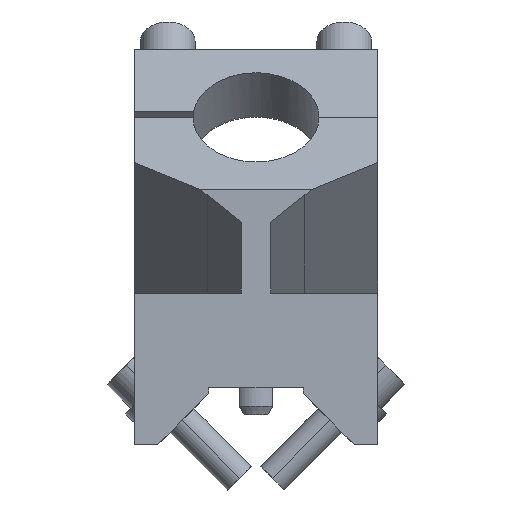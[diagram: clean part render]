
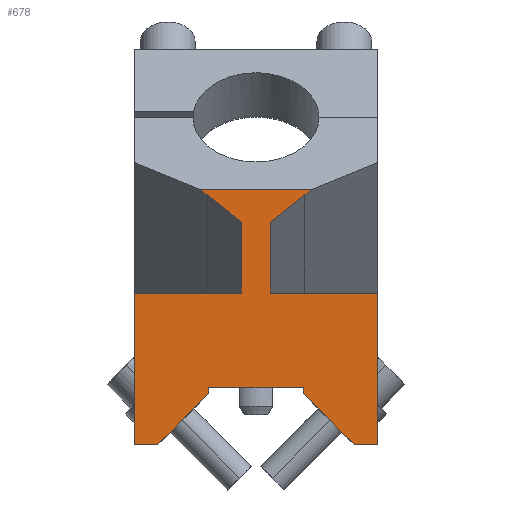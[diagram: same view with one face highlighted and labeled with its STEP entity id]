
A CAD part, front view. The second image highlights one B-rep face of the part: STEP entity #678.
In plain terms, the highlighted planar face has unit normal (0, -1, 0).
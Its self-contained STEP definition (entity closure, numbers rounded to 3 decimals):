
#678=ADVANCED_FACE('Pad.6',(#1650),#1651,.T.);
#1650=FACE_OUTER_BOUND('',#3040,.T.);
#1651=PLANE('',#3041);
#3040=EDGE_LOOP('',(#4679,#4680,#4681,#4682,#4683,#4684,#4685,#4686,#4687,#4688,#4689,#4690,#4691,#4692,#4693,#4694,#4695,#4696));
#3041=AXIS2_PLACEMENT_3D('',#4697,#4698,#4699);
#4679=ORIENTED_EDGE('',*,*,#8227,.T.);
#4680=ORIENTED_EDGE('',*,*,#8213,.T.);
#4681=ORIENTED_EDGE('',*,*,#8229,.T.);
#4682=ORIENTED_EDGE('',*,*,#8230,.T.);
#4683=ORIENTED_EDGE('',*,*,#8231,.T.);
#4684=ORIENTED_EDGE('',*,*,#8232,.F.);
#4685=ORIENTED_EDGE('',*,*,#8233,.T.);
#4686=ORIENTED_EDGE('',*,*,#8234,.F.);
#4687=ORIENTED_EDGE('',*,*,#8235,.F.);
#4688=ORIENTED_EDGE('',*,*,#8236,.T.);
#4689=ORIENTED_EDGE('',*,*,#8237,.F.);
#4690=ORIENTED_EDGE('',*,*,#8238,.F.);
#4691=ORIENTED_EDGE('',*,*,#8239,.F.);
#4692=ORIENTED_EDGE('',*,*,#8240,.F.);
#4693=ORIENTED_EDGE('',*,*,#8241,.T.);
#4694=ORIENTED_EDGE('',*,*,#8242,.T.);
#4695=ORIENTED_EDGE('',*,*,#8243,.T.);
#4696=ORIENTED_EDGE('',*,*,#8244,.T.);
#4697=CARTESIAN_POINT('',(0.0,-14.0,0.0));
#4698=DIRECTION('',(0.0,-1.0,0.0));
#4699=DIRECTION('',(1.0,0.0,0.0));
#8213=EDGE_CURVE('',#9856,#9861,#9863,.T.);
#8227=EDGE_CURVE('',#9878,#9856,#9882,.T.);
#8229=EDGE_CURVE('',#9861,#9884,#9885,.F.);
#8230=EDGE_CURVE('',#9884,#9886,#9887,.F.);
#8231=EDGE_CURVE('',#9886,#9888,#9889,.F.);
#8232=EDGE_CURVE('',#9890,#9888,#9891,.T.);
#8233=EDGE_CURVE('',#9890,#9892,#9893,.F.);
#8234=EDGE_CURVE('',#9894,#9892,#9895,.T.);
#8235=EDGE_CURVE('',#9896,#9894,#9897,.T.);
#8236=EDGE_CURVE('',#9896,#9898,#9899,.T.);
#8237=EDGE_CURVE('',#9900,#9898,#9901,.T.);
#8238=EDGE_CURVE('',#9902,#9900,#9903,.T.);
#8239=EDGE_CURVE('',#9904,#9902,#9905,.T.);
#8240=EDGE_CURVE('',#9906,#9904,#9907,.T.);
#8241=EDGE_CURVE('',#9906,#9908,#9909,.F.);
#8242=EDGE_CURVE('',#9908,#9910,#9911,.T.);
#8243=EDGE_CURVE('',#9910,#9912,#9913,.F.);
#8244=EDGE_CURVE('',#9912,#9878,#9914,.F.);
#9856=VERTEX_POINT('',#12629);
#9861=VERTEX_POINT('',#12636);
#9863=LINE('',#12639,#12640);
#9878=VERTEX_POINT('',#12658);
#9882=LINE('',#12664,#12665);
#9884=VERTEX_POINT('',#12667);
#9885=LINE('',#12668,#12669);
#9886=VERTEX_POINT('',#12670);
#9887=LINE('',#12671,#12672);
#9888=VERTEX_POINT('',#12673);
#9889=LINE('',#12674,#12675);
#9890=VERTEX_POINT('',#12676);
#9891=LINE('',#12677,#12678);
#9892=VERTEX_POINT('',#12679);
#9893=LINE('',#12680,#12681);
#9894=VERTEX_POINT('',#12682);
#9895=LINE('',#12683,#12684);
#9896=VERTEX_POINT('',#12685);
#9897=LINE('',#12686,#12687);
#9898=VERTEX_POINT('',#12688);
#9899=LINE('',#12689,#12690);
#9900=VERTEX_POINT('',#12691);
#9901=LINE('',#12692,#12693);
#9902=VERTEX_POINT('',#12694);
#9903=LINE('',#12695,#12696);
#9904=VERTEX_POINT('',#12697);
#9905=LINE('',#12698,#12699);
#9906=VERTEX_POINT('',#12700);
#9907=LINE('',#12701,#12702);
#9908=VERTEX_POINT('',#12703);
#9909=LINE('',#12704,#12705);
#9910=VERTEX_POINT('',#12706);
#9911=LINE('',#12707,#12708);
#9912=VERTEX_POINT('',#12709);
#9913=LINE('',#12710,#12711);
#9914=LINE('',#12712,#12713);
#12629=CARTESIAN_POINT('',(-11.246,-14.0,25.5));
#12636=CARTESIAN_POINT('',(11.246,-14.0,25.5));
#12639=CARTESIAN_POINT('',(0.,-14.0,25.5));
#12640=VECTOR('',#16001,1.0);
#12658=CARTESIAN_POINT('',(-11.246,-14.0,24.109));
#12664=CARTESIAN_POINT('',(-11.246,-14.0,24.805));
#12665=VECTOR('',#16019,1.0);
#12667=CARTESIAN_POINT('',(11.246,-14.0,24.109));
#12668=CARTESIAN_POINT('',(11.246,-14.0,24.805));
#12669=VECTOR('',#16020,1.0);
#12670=CARTESIAN_POINT('',(23.355,-14.0,12.));
#12671=CARTESIAN_POINT('',(17.301,-14.0,18.055));
#12672=VECTOR('',#16021,1.0);
#12673=CARTESIAN_POINT('',(29.,-14.0,12.));
#12674=CARTESIAN_POINT('',(26.178,-14.0,12.));
#12675=VECTOR('',#16022,1.0);
#12676=CARTESIAN_POINT('',(29.,-14.0,48.));
#12677=CARTESIAN_POINT('',(29.,-14.0,30.));
#12678=VECTOR('',#16023,1.0);
#12679=CARTESIAN_POINT('',(3.5,-14.0,48.));
#12680=CARTESIAN_POINT('',(16.25,-14.0,48.));
#12681=VECTOR('',#16024,1.0);
#12682=CARTESIAN_POINT('',(3.5,-14.0,64.844));
#12683=CARTESIAN_POINT('',(3.5,-14.0,56.422));
#12684=VECTOR('',#16025,1.0);
#12685=CARTESIAN_POINT('',(11.65,-14.0,71.349));
#12686=CARTESIAN_POINT('',(7.575,-14.0,68.096));
#12687=VECTOR('',#16026,1.0);
#12688=CARTESIAN_POINT('',(13.214,-14.0,72.597));
#12689=CARTESIAN_POINT('',(12.432,-14.0,71.973));
#12690=VECTOR('',#16027,1.0);
#12691=CARTESIAN_POINT('',(-13.214,-14.0,72.597));
#12692=CARTESIAN_POINT('',(0.,-14.0,72.597));
#12693=VECTOR('',#16028,1.0);
#12694=CARTESIAN_POINT('',(-11.65,-14.0,71.349));
#12695=CARTESIAN_POINT('',(-12.432,-14.0,71.973));
#12696=VECTOR('',#16029,1.0);
#12697=CARTESIAN_POINT('',(-3.5,-14.0,64.844));
#12698=CARTESIAN_POINT('',(-7.575,-14.0,68.096));
#12699=VECTOR('',#16030,1.0);
#12700=CARTESIAN_POINT('',(-3.5,-14.0,48.));
#12701=CARTESIAN_POINT('',(-3.5,-14.0,56.422));
#12702=VECTOR('',#16031,1.0);
#12703=CARTESIAN_POINT('',(-29.,-14.0,48.));
#12704=CARTESIAN_POINT('',(-16.25,-14.0,48.));
#12705=VECTOR('',#16032,1.0);
#12706=CARTESIAN_POINT('',(-29.,-14.0,12.));
#12707=CARTESIAN_POINT('',(-29.,-14.0,30.));
#12708=VECTOR('',#16033,1.0);
#12709=CARTESIAN_POINT('',(-23.355,-14.0,12.));
#12710=CARTESIAN_POINT('',(-26.178,-14.0,12.));
#12711=VECTOR('',#16034,1.0);
#12712=CARTESIAN_POINT('',(-17.301,-14.0,18.055));
#12713=VECTOR('',#16035,1.0);
#16001=DIRECTION('',(1.0,0.0,0.0));
#16019=DIRECTION('',(0.0,0.0,1.0));
#16020=DIRECTION('',(0.0,0.0,1.0));
#16021=DIRECTION('',(-0.707,0.0,0.707));
#16022=DIRECTION('',(-1.0,0.0,0.0));
#16023=DIRECTION('',(0.0,0.0,-1.0));
#16024=DIRECTION('',(1.0,0.0,0.0));
#16025=DIRECTION('',(0.0,0.0,-1.0));
#16026=DIRECTION('',(-0.782,0.0,-0.624));
#16027=DIRECTION('',(0.782,0.0,0.624));
#16028=DIRECTION('',(1.0,0.0,0.0));
#16029=DIRECTION('',(-0.782,0.0,0.624));
#16030=DIRECTION('',(-0.782,0.0,0.624));
#16031=DIRECTION('',(0.,0.0,1.0));
#16032=DIRECTION('',(1.0,0.0,0.0));
#16033=DIRECTION('',(0.0,0.0,-1.0));
#16034=DIRECTION('',(-1.0,0.0,0.0));
#16035=DIRECTION('',(-0.707,0.0,-0.707));
